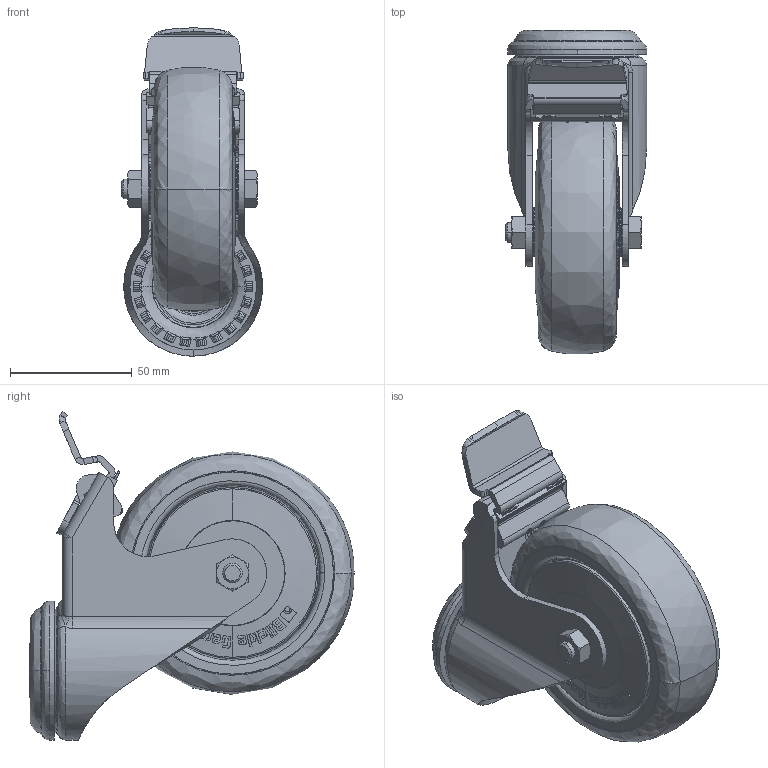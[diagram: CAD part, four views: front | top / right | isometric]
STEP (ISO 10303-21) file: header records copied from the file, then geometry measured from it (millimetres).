
FILE_DESCRIPTION (( 'STEP AP214' ), '1' );
FILE_NAME ('1.5055 Pyörä Blickle D100 H133 kääntyvä lukollinen kuulalaakerilla.STEP', '2025-09-17T07:27:42', ( '' ), ( '' ), 'SwSTEP 2.0', 'SolidWorks 2025', '' );
FILE_SCHEMA (( 'AUTOMOTIVE_DESIGN' ));
Length unit declared in the file: millimetre
Products named in the file (1): 1.5055 Pyörä Blickle D100 H133 kääntyvä lukollinen kuulalaakerilla
Bounding box: 58 x 132.86 x 134.57 mm (x, y, z)
Volume: 261519.2 mm3; surface area: 93220.2 mm2
Topology: 3 solids, 6 shells, 2512 faces, 6780 edges, 4404 vertices
Faces by surface type: plane 1101, bspline 866, cylinder 376, cone 169
Entity records: 143568 total; most frequent: CARTESIAN_POINT 61014, ORIENTED_EDGE 13548, DIRECTION 8108, EDGE_CURVE 6774, VERTEX_POINT 4404, LINE 3058, VECTOR 3058, B_SPLINE_CURVE_WITH_KNOTS 2722
